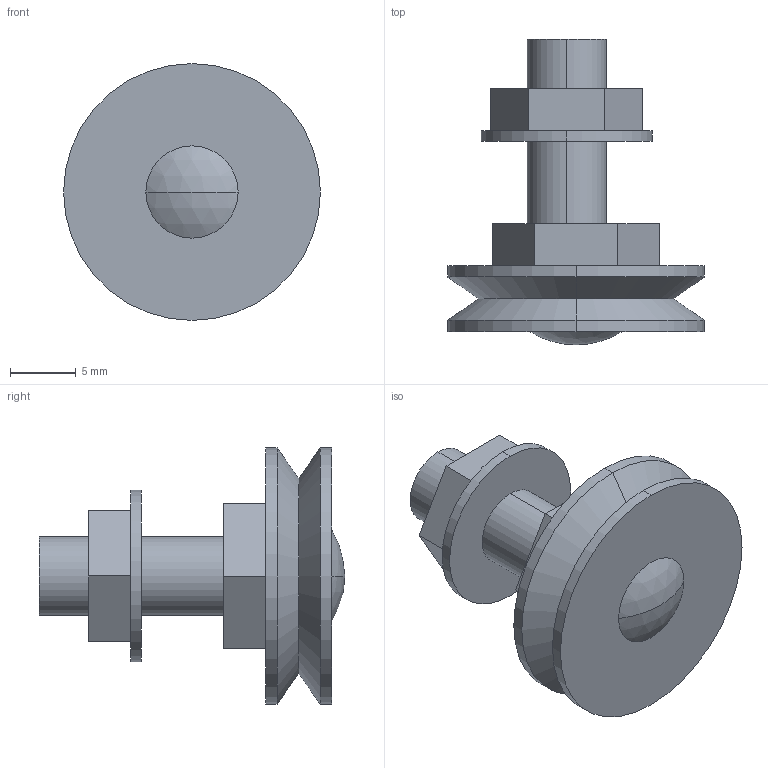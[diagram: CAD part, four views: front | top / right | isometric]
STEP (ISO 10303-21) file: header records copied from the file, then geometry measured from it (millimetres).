
FILE_DESCRIPTION(('STEP AP203'),'1');
FILE_NAME('glj_195_e_ns.stp','2021-09-29T06:38:44',('TraceParts'),('TraceParts S.A.'),'Spatial InterOp 3D',' ',' ');
FILE_SCHEMA(('CONFIG_CONTROL_DESIGN'));
Length unit declared in the file: millimetre
Products named in the file (1): 1
Bounding box: 19.5 x 23.2 x 19.5 mm (x, y, z)
Volume: 2280.3 mm3; surface area: 1703.1 mm2
Topology: 1 solids, 1 shells, 42 faces, 94 edges, 61 vertices
Faces by surface type: plane 26, cylinder 10, cone 4, sphere 2
Entity records: 1208 total; most frequent: DIRECTION 206, CARTESIAN_POINT 198, ORIENTED_EDGE 188, EDGE_CURVE 94, AXIS2_PLACEMENT_3D 69, LINE 68, VECTOR 68, VERTEX_POINT 61
